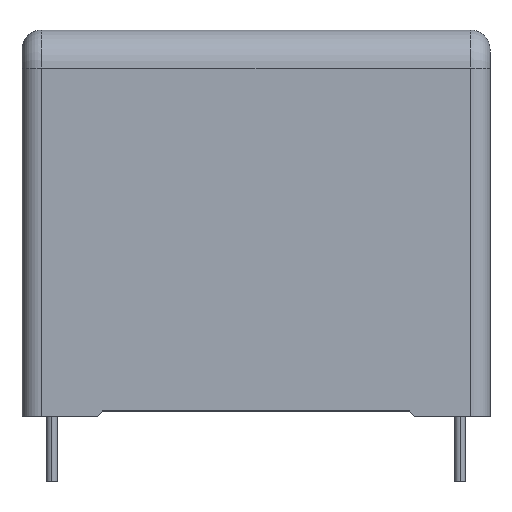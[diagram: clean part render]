
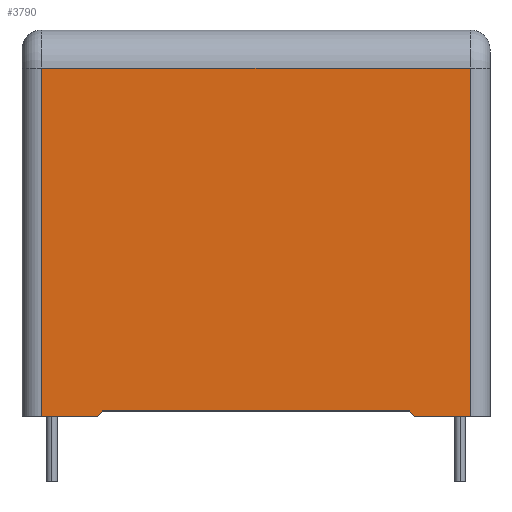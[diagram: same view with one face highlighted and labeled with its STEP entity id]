
A CAD part, top view. The second image highlights one B-rep face of the part: STEP entity #3790.
In plain terms, the highlighted planar face has unit normal (0, 0, 1).
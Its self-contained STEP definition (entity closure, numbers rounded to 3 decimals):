
#46 = DIRECTION ( 'NONE',  ( -0.707, 0.707, 0. ) ) ;
#58 = VECTOR ( 'NONE', #1161, 1000. ) ;
#112 = VECTOR ( 'NONE', #2137, 1000. ) ;
#416 = DIRECTION ( 'NONE',  ( 0., 0., -1. ) ) ;
#496 = CARTESIAN_POINT ( 'NONE',  ( -19.7, 35.5, 9.25 ) ) ;
#602 = VECTOR ( 'NONE', #1073, 1000. ) ;
#646 = DIRECTION ( 'NONE',  ( -0.707, -0.707, 0. ) ) ;
#746 = VECTOR ( 'NONE', #646, 1000. ) ;
#747 = CARTESIAN_POINT ( 'NONE',  ( -21.5, 0., 9.25 ) ) ;
#803 = VERTEX_POINT ( 'NONE', #4089 ) ;
#941 = LINE ( 'NONE', #1773, #112 ) ;
#1073 = DIRECTION ( 'NONE',  ( 1., 0., 0. ) ) ;
#1161 = DIRECTION ( 'NONE',  ( 0., 1., 0. ) ) ;
#1197 = CARTESIAN_POINT ( 'NONE',  ( -21.5, 35.5, 9.25 ) ) ;
#1345 = LINE ( 'NONE', #2132, #1401 ) ;
#1401 = VECTOR ( 'NONE', #4352, 1000. ) ;
#1575 = PLANE ( 'NONE',  #2563 ) ;
#1635 = LINE ( 'NONE', #3989, #2590 ) ;
#1728 = DIRECTION ( 'NONE',  ( -1., 0., 0. ) ) ;
#1761 = EDGE_LOOP ( 'NONE', ( #3616, #3620, #3642, #3650, #3664, #3711, #3741, #3789 ) ) ;
#1773 = CARTESIAN_POINT ( 'NONE',  ( -21.5, 0., 9.25 ) ) ;
#1807 = CARTESIAN_POINT ( 'NONE',  ( -19.7, 32., 9.25 ) ) ;
#1901 = VECTOR ( 'NONE', #3648, 1000. ) ;
#1938 = LINE ( 'NONE', #496, #1901 ) ;
#1991 = VECTOR ( 'NONE', #46, 1000. ) ;
#2010 = VERTEX_POINT ( 'NONE', #2953 ) ;
#2132 = CARTESIAN_POINT ( 'NONE',  ( -21.5, 32., 9.25 ) ) ;
#2137 = DIRECTION ( 'NONE',  ( 1., 0., 0. ) ) ;
#2183 = CARTESIAN_POINT ( 'NONE',  ( 19.7, 0., 9.25 ) ) ;
#2511 = CARTESIAN_POINT ( 'NONE',  ( -14.6, 0., 9.25 ) ) ;
#2563 = AXIS2_PLACEMENT_3D ( 'NONE', #1197, #416, #2985 ) ;
#2590 = VECTOR ( 'NONE', #1728, 1000. ) ;
#2709 = EDGE_CURVE ( 'NONE', #3135, #2966, #941, .T. ) ;
#2794 = EDGE_CURVE ( 'NONE', #803, #3337, #4417, .T. ) ;
#2878 = VERTEX_POINT ( 'NONE', #1807 ) ;
#2885 = VERTEX_POINT ( 'NONE', #3154 ) ;
#2912 = LINE ( 'NONE', #3927, #1991 ) ;
#2946 = CARTESIAN_POINT ( 'NONE',  ( 19.7, 35.5, 9.25 ) ) ;
#2953 = CARTESIAN_POINT ( 'NONE',  ( 14.1, 0.5, 9.25 ) ) ;
#2966 = VERTEX_POINT ( 'NONE', #2183 ) ;
#2985 = DIRECTION ( 'NONE',  ( -1., 0., 0. ) ) ;
#3018 = EDGE_CURVE ( 'NONE', #2885, #3337, #4156, .T. ) ;
#3045 = CARTESIAN_POINT ( 'NONE',  ( 19.7, 32., 9.25 ) ) ;
#3135 = VERTEX_POINT ( 'NONE', #4189 ) ;
#3154 = CARTESIAN_POINT ( 'NONE',  ( -19.7, 0., 9.25 ) ) ;
#3190 = VERTEX_POINT ( 'NONE', #3045 ) ;
#3210 = EDGE_CURVE ( 'NONE', #2878, #2885, #1938, .T. ) ;
#3337 = VERTEX_POINT ( 'NONE', #3378 ) ;
#3378 = CARTESIAN_POINT ( 'NONE',  ( -14.6, 0., 9.25 ) ) ;
#3390 = EDGE_CURVE ( 'NONE', #3190, #2878, #1345, .T. ) ;
#3606 = EDGE_CURVE ( 'NONE', #2966, #3190, #3819, .T. ) ;
#3616 = ORIENTED_EDGE ( 'NONE', *, *, #4038, .F. ) ;
#3620 = ORIENTED_EDGE ( 'NONE', *, *, #3829, .F. ) ;
#3642 = ORIENTED_EDGE ( 'NONE', *, *, #2709, .T. ) ;
#3648 = DIRECTION ( 'NONE',  ( 0., -1., 0. ) ) ;
#3650 = ORIENTED_EDGE ( 'NONE', *, *, #3606, .T. ) ;
#3664 = ORIENTED_EDGE ( 'NONE', *, *, #3390, .T. ) ;
#3711 = ORIENTED_EDGE ( 'NONE', *, *, #3210, .T. ) ;
#3741 = ORIENTED_EDGE ( 'NONE', *, *, #3018, .T. ) ;
#3789 = ORIENTED_EDGE ( 'NONE', *, *, #2794, .F. ) ;
#3790 = ADVANCED_FACE ( 'NONE', ( #3808 ), #1575, .F. ) ;
#3808 = FACE_OUTER_BOUND ( 'NONE', #1761, .T. ) ;
#3819 = LINE ( 'NONE', #2946, #58 ) ;
#3829 = EDGE_CURVE ( 'NONE', #3135, #2010, #2912, .T. ) ;
#3927 = CARTESIAN_POINT ( 'NONE',  ( 14.1, 0.5, 9.25 ) ) ;
#3989 = CARTESIAN_POINT ( 'NONE',  ( -14.1, 0.5, 9.25 ) ) ;
#4038 = EDGE_CURVE ( 'NONE', #2010, #803, #1635, .T. ) ;
#4089 = CARTESIAN_POINT ( 'NONE',  ( -14.1, 0.5, 9.25 ) ) ;
#4156 = LINE ( 'NONE', #747, #602 ) ;
#4189 = CARTESIAN_POINT ( 'NONE',  ( 14.6, 0., 9.25 ) ) ;
#4352 = DIRECTION ( 'NONE',  ( -1., 0., 0. ) ) ;
#4417 = LINE ( 'NONE', #2511, #746 ) ;
